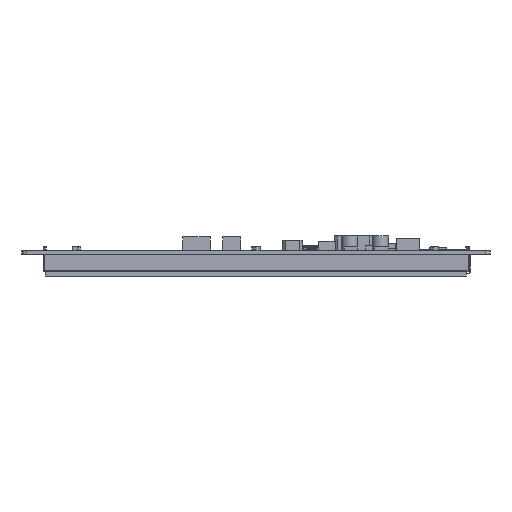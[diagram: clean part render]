
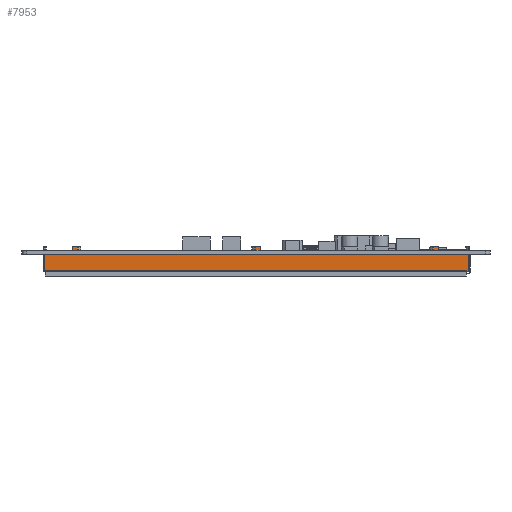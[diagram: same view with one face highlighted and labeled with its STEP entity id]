
A CAD part, left-side view. The second image highlights one B-rep face of the part: STEP entity #7953.
In plain terms, the highlighted planar face has unit normal (-1, 0, 0).
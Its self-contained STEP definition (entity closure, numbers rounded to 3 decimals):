
#5038=PLANE('',#66109);
#7953=ADVANCED_FACE('',(#11402),#5038,.T.);
#11402=FACE_OUTER_BOUND('',#14521,.T.);
#14521=EDGE_LOOP('',(#30140,#30141,#30142,#30143,#30144,#30145,#30146,#30147,
#30148,#30149,#30150,#30151,#30152,#30153,#30154,#30155,#30156,#30157,#30158,
#30159,#30160,#30161));
#30140=ORIENTED_EDGE('',*,*,#45038,.F.);
#30141=ORIENTED_EDGE('',*,*,#45039,.T.);
#30142=ORIENTED_EDGE('',*,*,#45040,.T.);
#30143=ORIENTED_EDGE('',*,*,#45041,.F.);
#30144=ORIENTED_EDGE('',*,*,#45042,.F.);
#30145=ORIENTED_EDGE('',*,*,#45043,.F.);
#30146=ORIENTED_EDGE('',*,*,#45044,.T.);
#30147=ORIENTED_EDGE('',*,*,#45045,.T.);
#30148=ORIENTED_EDGE('',*,*,#45046,.T.);
#30149=ORIENTED_EDGE('',*,*,#45035,.F.);
#30150=ORIENTED_EDGE('',*,*,#45047,.F.);
#30151=ORIENTED_EDGE('',*,*,#45048,.F.);
#30152=ORIENTED_EDGE('',*,*,#45049,.T.);
#30153=ORIENTED_EDGE('',*,*,#45050,.T.);
#30154=ORIENTED_EDGE('',*,*,#45051,.T.);
#30155=ORIENTED_EDGE('',*,*,#45031,.F.);
#30156=ORIENTED_EDGE('',*,*,#45052,.F.);
#30157=ORIENTED_EDGE('',*,*,#45053,.T.);
#30158=ORIENTED_EDGE('',*,*,#45054,.F.);
#30159=ORIENTED_EDGE('',*,*,#45055,.F.);
#30160=ORIENTED_EDGE('',*,*,#45056,.T.);
#30161=ORIENTED_EDGE('',*,*,#45029,.F.);
#36816=VERTEX_POINT('',#98097);
#36818=VERTEX_POINT('',#98101);
#36819=VERTEX_POINT('',#98105);
#36821=VERTEX_POINT('',#98108);
#36823=VERTEX_POINT('',#98114);
#36825=VERTEX_POINT('',#98117);
#36827=VERTEX_POINT('',#98123);
#36828=VERTEX_POINT('',#98125);
#36829=VERTEX_POINT('',#98127);
#36830=VERTEX_POINT('',#98129);
#36831=VERTEX_POINT('',#98131);
#36832=VERTEX_POINT('',#98133);
#36833=VERTEX_POINT('',#98135);
#36834=VERTEX_POINT('',#98137);
#36835=VERTEX_POINT('',#98140);
#36836=VERTEX_POINT('',#98142);
#36837=VERTEX_POINT('',#98144);
#36838=VERTEX_POINT('',#98146);
#36839=VERTEX_POINT('',#98149);
#36840=VERTEX_POINT('',#98151);
#36841=VERTEX_POINT('',#98153);
#36842=VERTEX_POINT('',#98155);
#45029=EDGE_CURVE('',#36818,#36816,#53856,.T.);
#45031=EDGE_CURVE('',#36819,#36821,#53858,.T.);
#45035=EDGE_CURVE('',#36823,#36825,#53862,.T.);
#45038=EDGE_CURVE('',#36827,#36818,#53865,.T.);
#45039=EDGE_CURVE('',#36827,#36828,#53866,.T.);
#45040=EDGE_CURVE('',#36828,#36829,#53867,.T.);
#45041=EDGE_CURVE('',#36830,#36829,#53868,.T.);
#45042=EDGE_CURVE('',#36831,#36830,#53869,.T.);
#45043=EDGE_CURVE('',#36832,#36831,#53870,.T.);
#45044=EDGE_CURVE('',#36832,#36833,#53871,.T.);
#45045=EDGE_CURVE('',#36833,#36834,#53872,.T.);
#45046=EDGE_CURVE('',#36834,#36825,#53873,.T.);
#45047=EDGE_CURVE('',#36835,#36823,#53874,.T.);
#45048=EDGE_CURVE('',#36836,#36835,#53875,.T.);
#45049=EDGE_CURVE('',#36836,#36837,#53876,.T.);
#45050=EDGE_CURVE('',#36837,#36838,#53877,.T.);
#45051=EDGE_CURVE('',#36838,#36821,#53878,.T.);
#45052=EDGE_CURVE('',#36839,#36819,#53879,.T.);
#45053=EDGE_CURVE('',#36839,#36840,#53880,.T.);
#45054=EDGE_CURVE('',#36841,#36840,#53881,.T.);
#45055=EDGE_CURVE('',#36842,#36841,#53882,.T.);
#45056=EDGE_CURVE('',#36842,#36816,#53883,.T.);
#53856=LINE('',#98102,#61352);
#53858=LINE('',#98107,#61354);
#53862=LINE('',#98116,#61358);
#53865=LINE('',#98122,#61361);
#53866=LINE('',#98124,#61362);
#53867=LINE('',#98126,#61363);
#53868=LINE('',#98128,#61364);
#53869=LINE('',#98130,#61365);
#53870=LINE('',#98132,#61366);
#53871=LINE('',#98134,#61367);
#53872=LINE('',#98136,#61368);
#53873=LINE('',#98138,#61369);
#53874=LINE('',#98139,#61370);
#53875=LINE('',#98141,#61371);
#53876=LINE('',#98143,#61372);
#53877=LINE('',#98145,#61373);
#53878=LINE('',#98147,#61374);
#53879=LINE('',#98148,#61375);
#53880=LINE('',#98150,#61376);
#53881=LINE('',#98152,#61377);
#53882=LINE('',#98154,#61378);
#53883=LINE('',#98156,#61379);
#61352=VECTOR('',#80384,1.);
#61354=VECTOR('',#80388,1.);
#61358=VECTOR('',#80394,1.);
#61361=VECTOR('',#80399,1.);
#61362=VECTOR('',#80400,1.);
#61363=VECTOR('',#80401,1.);
#61364=VECTOR('',#80402,1.);
#61365=VECTOR('',#80403,1.);
#61366=VECTOR('',#80404,1.);
#61367=VECTOR('',#80405,1.);
#61368=VECTOR('',#80406,1.);
#61369=VECTOR('',#80407,1.);
#61370=VECTOR('',#80408,1.);
#61371=VECTOR('',#80409,1.);
#61372=VECTOR('',#80410,1.);
#61373=VECTOR('',#80411,1.);
#61374=VECTOR('',#80412,1.);
#61375=VECTOR('',#80413,1.);
#61376=VECTOR('',#80414,1.);
#61377=VECTOR('',#80415,1.);
#61378=VECTOR('',#80416,1.);
#61379=VECTOR('',#80417,1.);
#66109=AXIS2_PLACEMENT_3D('',#98157,#80418,#80419);
#80384=DIRECTION('',(0.,-1.,0.));
#80388=DIRECTION('',(0.,-1.,0.));
#80394=DIRECTION('',(0.,-1.,0.));
#80399=DIRECTION('',(0.,0.,1.));
#80400=DIRECTION('',(0.,-1.,0.));
#80401=DIRECTION('',(0.,0.,1.));
#80402=DIRECTION('',(0.,-1.,0.));
#80403=DIRECTION('',(0.,0.,-1.));
#80404=DIRECTION('',(0.,-1.,0.));
#80405=DIRECTION('',(0.,0.,-1.));
#80406=DIRECTION('',(0.,-1.,0.));
#80407=DIRECTION('',(0.,0.,-1.));
#80408=DIRECTION('',(0.,0.,-1.));
#80409=DIRECTION('',(0.,-1.,0.));
#80410=DIRECTION('',(0.,0.,-1.));
#80411=DIRECTION('',(0.,-1.,0.));
#80412=DIRECTION('',(0.,0.,-1.));
#80413=DIRECTION('',(0.,0.,-1.));
#80414=DIRECTION('',(0.,-1.,0.));
#80415=DIRECTION('',(0.,0.,-1.));
#80416=DIRECTION('',(0.,-1.,0.));
#80417=DIRECTION('',(0.,0.,-1.));
#80418=DIRECTION('',(-1.,0.,0.));
#80419=DIRECTION('',(0.,-1.,0.));
#98097=CARTESIAN_POINT('',(-110.155,109.34,-1.6));
#98101=CARTESIAN_POINT('',(-110.155,120.865,-1.6));
#98102=CARTESIAN_POINT('',(-110.155,120.865,-1.6));
#98105=CARTESIAN_POINT('',(-110.155,107.34,-1.6));
#98107=CARTESIAN_POINT('',(-110.155,120.865,-1.6));
#98108=CARTESIAN_POINT('',(-110.155,33.463,-1.6));
#98114=CARTESIAN_POINT('',(-110.155,31.463,-1.6));
#98116=CARTESIAN_POINT('',(-110.155,120.865,-1.6));
#98117=CARTESIAN_POINT('',(-110.155,-40.462,-1.6));
#98122=CARTESIAN_POINT('',(-110.155,120.865,-8.8));
#98123=CARTESIAN_POINT('',(-110.155,120.865,-8.4));
#98124=CARTESIAN_POINT('',(-110.155,-54.535,-8.4));
#98125=CARTESIAN_POINT('',(-110.155,-54.535,-8.4));
#98126=CARTESIAN_POINT('',(-110.155,-54.535,-8.8));
#98127=CARTESIAN_POINT('',(-110.155,-54.535,-1.6));
#98128=CARTESIAN_POINT('',(-110.155,120.865,-1.6));
#98129=CARTESIAN_POINT('',(-110.155,-42.462,-1.6));
#98130=CARTESIAN_POINT('',(-110.155,-42.462,0.));
#98131=CARTESIAN_POINT('',(-110.155,-42.462,1.6));
#98132=CARTESIAN_POINT('',(-110.155,-40.344,1.6));
#98133=CARTESIAN_POINT('',(-110.155,-40.344,1.6));
#98134=CARTESIAN_POINT('',(-110.155,-40.344,1.6));
#98135=CARTESIAN_POINT('',(-110.155,-40.344,0.));
#98136=CARTESIAN_POINT('',(-110.155,-40.344,0.));
#98137=CARTESIAN_POINT('',(-110.155,-40.462,0.));
#98138=CARTESIAN_POINT('',(-110.155,-40.462,0.));
#98139=CARTESIAN_POINT('',(-110.155,31.463,0.));
#98140=CARTESIAN_POINT('',(-110.155,31.463,1.6));
#98141=CARTESIAN_POINT('',(-110.155,33.581,1.6));
#98142=CARTESIAN_POINT('',(-110.155,33.581,1.6));
#98143=CARTESIAN_POINT('',(-110.155,33.581,1.6));
#98144=CARTESIAN_POINT('',(-110.155,33.581,0.));
#98145=CARTESIAN_POINT('',(-110.155,33.581,0.));
#98146=CARTESIAN_POINT('',(-110.155,33.463,0.));
#98147=CARTESIAN_POINT('',(-110.155,33.463,0.));
#98148=CARTESIAN_POINT('',(-110.155,107.34,0.));
#98149=CARTESIAN_POINT('',(-110.155,107.34,0.));
#98150=CARTESIAN_POINT('',(-110.155,109.34,0.));
#98151=CARTESIAN_POINT('',(-110.155,107.196,0.));
#98152=CARTESIAN_POINT('',(-110.155,107.196,1.6));
#98153=CARTESIAN_POINT('',(-110.155,107.196,1.6));
#98154=CARTESIAN_POINT('',(-110.155,109.34,1.6));
#98155=CARTESIAN_POINT('',(-110.155,109.34,1.6));
#98156=CARTESIAN_POINT('',(-110.155,109.34,0.));
#98157=CARTESIAN_POINT('',(-110.155,120.865,-8.8));
